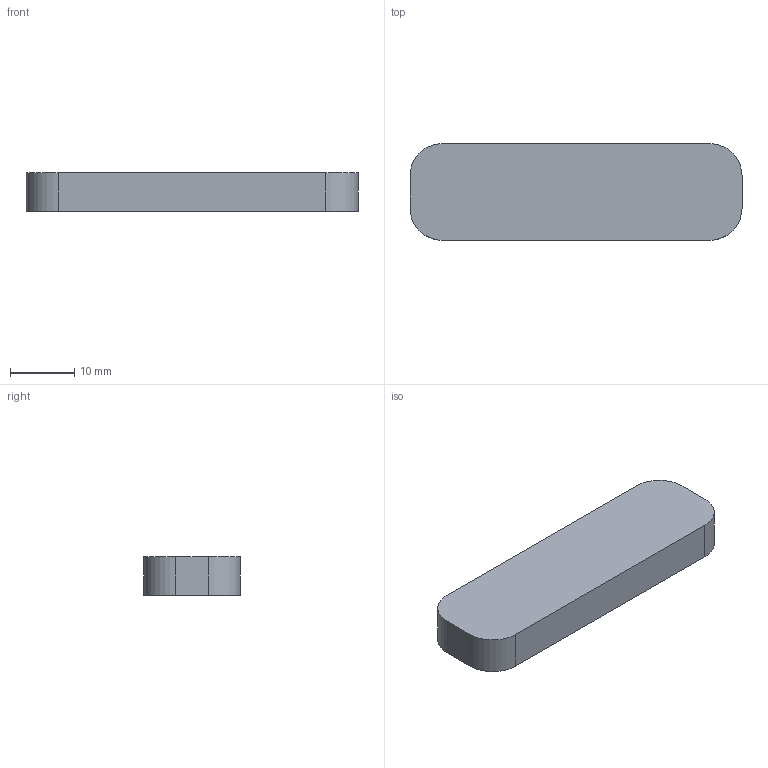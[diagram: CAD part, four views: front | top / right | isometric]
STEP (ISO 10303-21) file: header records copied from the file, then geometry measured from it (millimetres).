
FILE_DESCRIPTION (( 'STEP AP214' ), '1' );
FILE_NAME ('电池卡扣遮挡盒.STEP', '2026-09-29T01:26:51', ( '微软用户' ), ( '微软中国' ), 'SwSTEP 2.0', 'SolidWorks 2016', '' );
FILE_SCHEMA (( 'AUTOMOTIVE_DESIGN' ));
Length unit declared in the file: millimetre
Products named in the file (1): 萇喀縐諶殑結碟
Bounding box: 51.5 x 15 x 6 mm (x, y, z)
Volume: 2121.3 mm3; surface area: 2982.1 mm2
Topology: 1 solids, 1 shells, 47 faces, 116 edges, 76 vertices
Faces by surface type: plane 23, cylinder 20, cone 4
Entity records: 1480 total; most frequent: DIRECTION 256, CARTESIAN_POINT 240, ORIENTED_EDGE 232, EDGE_CURVE 116, AXIS2_PLACEMENT_3D 92, VERTEX_POINT 76, LINE 72, VECTOR 72
